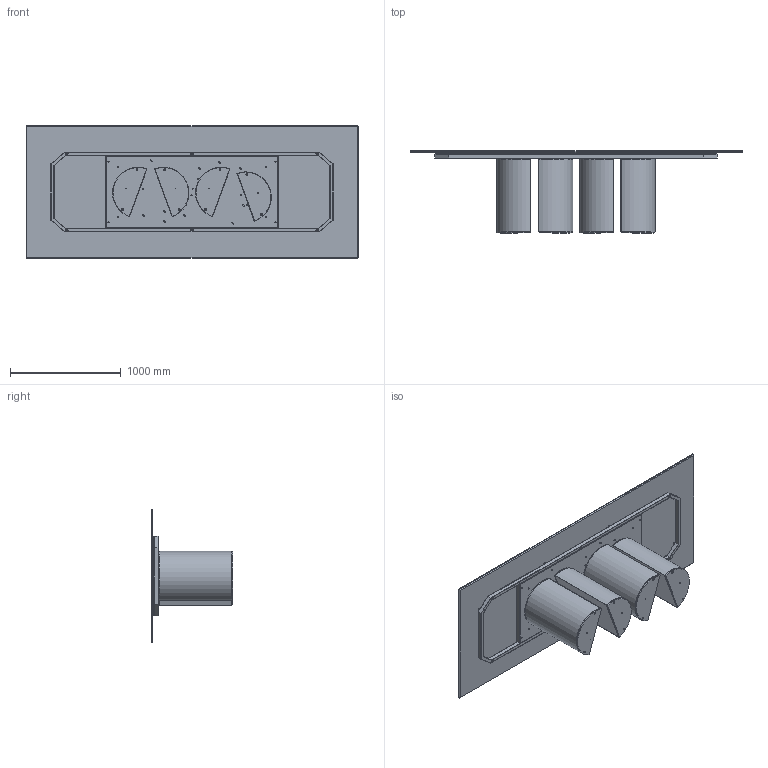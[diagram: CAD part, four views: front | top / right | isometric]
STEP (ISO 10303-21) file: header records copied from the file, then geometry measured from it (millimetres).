
FILE_DESCRIPTION (( 'STEP AP203' ), '1' );
FILE_NAME ('PL24C.STEP', '2024-08-07T13:56:40', ( '' ), ( '' ), 'SwSTEP 2.0', 'SolidWorks 2022', '' );
FILE_SCHEMA (( 'CONFIG_CONTROL_DESIGN' ));
Length unit declared in the file: millimetre
Products named in the file (14): M8xXXmm_M8x20mm; PLA000000ZOC-01-PLAI ZOCCOLO DELLA BASE; K2XCMXX-00-Piani Rettangolari in ceramica_3000 x 1200; Assieme Basamento PLAI_Basamento per tavoli; rondella M8_8X24; COLLO TELAIO UNIVERSALE TTAV07 CON FERRAMENTA_MTG TOP CRISTALLO VERNICIATO-CERAMICA; TTAV07_01-04-STRUTTURA TAVOLI PLAI ONDA NOA 300; PLA000000BAS-00-PLAI BASE GREZZA; 434070-00-PIEDINO TPV GOMMA NERO D. 30x8max18_filo estetico; M8xXXmm_hex_M8X60mm; TTAV07-04-TELAIO X TAVOLI PLAI ONDA NOA 300; TTAV07_02-01-VASSOIO TELAIO  PLAI ONDA NOA 300; M8xXXmm_hex_M8X20mm; PL24C
Assembly tree (37 placements, depth 4):
  PL24C
    COLLO TELAIO UNIVERSALE TTAV07 CON FERRAMENTA_MTG TOP CRISTALLO VERNICIATO-CERAMICA
      TTAV07-04-TELAIO X TAVOLI PLAI ONDA NOA 300
        TTAV07_01-04-STRUTTURA TAVOLI PLAI ONDA NOA 300
        TTAV07_02-01-VASSOIO TELAIO  PLAI ONDA NOA 300
      434070-00-PIEDINO TPV GOMMA NERO D. 30x8max18_filo estetico  x8
    Assieme Basamento PLAI_Basamento per tavoli  x4
      PLA000000BAS-00-PLAI BASE GREZZA
      PLA000000ZOC-01-PLAI ZOCCOLO DELLA BASE
      M8xXXmm_hex_M8X60mm
      M8xXXmm_hex_M8X20mm
    rondella M8_8X24  x8
    M8xXXmm_M8x20mm  x8
    K2XCMXX-00-Piani Rettangolari in ceramica_3000 x 1200
Bounding box: 3000 x 740 x 1200 mm (x, y, z)
Volume: 74762507.1 mm3; surface area: 26238052.4 mm2
Topology: 64 solids, 64 shells, 1354 faces, 3072 edges, 1824 vertices
Faces by surface type: plane 582, cylinder 452, cone 160, torus 144, sphere 16
Entity records: 19623 total; most frequent: DIRECTION 3179, CARTESIAN_POINT 3081, ORIENTED_EDGE 2864, EDGE_CURVE 1432, AXIS2_PLACEMENT_3D 1172, VERTEX_POINT 892, VECTOR 835, LINE 835
